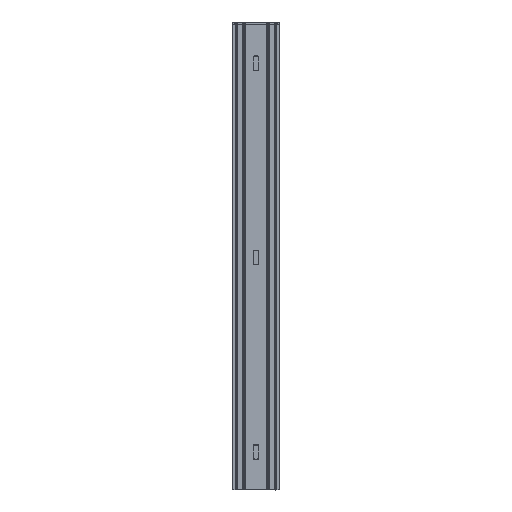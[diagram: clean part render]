
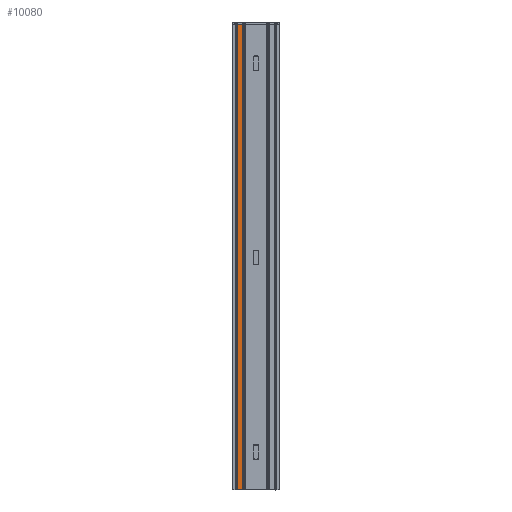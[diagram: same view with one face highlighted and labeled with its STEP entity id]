
A CAD part, front view. The second image highlights one B-rep face of the part: STEP entity #10080.
In plain terms, the highlighted planar face has unit normal (0, -1, 0).
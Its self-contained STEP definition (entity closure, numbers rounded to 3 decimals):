
#654 = LINE ( 'NONE', #9237, #6649 ) ;
#798 = EDGE_CURVE ( 'NONE', #23092, #19710, #23817, .T. ) ;
#1189 = ORIENTED_EDGE ( 'NONE', *, *, #798, .T. ) ;
#1209 = VERTEX_POINT ( 'NONE', #2409 ) ;
#1244 = FACE_OUTER_BOUND ( 'NONE', #27784, .T. ) ;
#1849 = LINE ( 'NONE', #25342, #25731 ) ;
#2067 = CARTESIAN_POINT ( 'NONE',  ( -119.192, -0.8, 2943.5 ) ) ;
#2092 = VECTOR ( 'NONE', #21010, 1000. ) ;
#2409 = CARTESIAN_POINT ( 'NONE',  ( -82.815, -0.801, 2943.5 ) ) ;
#2574 = B_SPLINE_CURVE_WITH_KNOTS ( 'NONE', 3,
 ( #11395, #9286, #11539, #17870 ),
 .UNSPECIFIED., .F., .F.,
 ( 4, 4 ),
 ( 0., 1. ),
 .UNSPECIFIED. ) ;
#3012 = CARTESIAN_POINT ( 'NONE',  ( -82.815, -0.801, 2943.5 ) ) ;
#3418 = LINE ( 'NONE', #8071, #2092 ) ;
#3566 = CARTESIAN_POINT ( 'NONE',  ( -119.323, -0.8, 0. ) ) ;
#3656 = EDGE_CURVE ( 'NONE', #1209, #6328, #17499, .T. ) ;
#4030 = CARTESIAN_POINT ( 'NONE',  ( -118.994, -0.8, 2943.5 ) ) ;
#5493 = CARTESIAN_POINT ( 'NONE',  ( -119.323, -0.8, 2943.5 ) ) ;
#5501 = CARTESIAN_POINT ( 'NONE',  ( -82.81, -0.8, 0. ) ) ;
#6328 = VERTEX_POINT ( 'NONE', #26913 ) ;
#6489 = VERTEX_POINT ( 'NONE', #5501 ) ;
#6649 = VECTOR ( 'NONE', #24000, 1000. ) ;
#7008 = DIRECTION ( 'NONE',  ( 0., -1., 0. ) ) ;
#8071 = CARTESIAN_POINT ( 'NONE',  ( -119.323, -0.8, 2943.5 ) ) ;
#8302 = ORIENTED_EDGE ( 'NONE', *, *, #25817, .T. ) ;
#9237 = CARTESIAN_POINT ( 'NONE',  ( -82.81, -0.8, 2943.5 ) ) ;
#9286 = CARTESIAN_POINT ( 'NONE',  ( -119.261, -0.8, 2943.5 ) ) ;
#9778 = ORIENTED_EDGE ( 'NONE', *, *, #22526, .T. ) ;
#10080 = ADVANCED_FACE ( 'NONE', ( #1244 ), #17698, .T. ) ;
#10749 = CARTESIAN_POINT ( 'NONE',  ( -119.117, -0.8, 2943.5 ) ) ;
#11395 = CARTESIAN_POINT ( 'NONE',  ( -119.229, -0.8, 2943.5 ) ) ;
#11539 = CARTESIAN_POINT ( 'NONE',  ( -119.292, -0.8, 2943.5 ) ) ;
#11604 = CARTESIAN_POINT ( 'NONE',  ( -94.871, -0.8, 2943.5 ) ) ;
#11665 = ORIENTED_EDGE ( 'NONE', *, *, #13677, .F. ) ;
#12007 = ORIENTED_EDGE ( 'NONE', *, *, #24133, .T. ) ;
#12606 = CARTESIAN_POINT ( 'NONE',  ( -119.076, -0.8, 2943.5 ) ) ;
#12895 = CARTESIAN_POINT ( 'NONE',  ( -119.154, -0.8, 2943.5 ) ) ;
#13677 = EDGE_CURVE ( 'NONE', #6489, #18335, #1849, .T. ) ;
#14172 = DIRECTION ( 'NONE',  ( 1., 0., 0. ) ) ;
#14595 = CARTESIAN_POINT ( 'NONE',  ( -119.229, -0.8, 2943.5 ) ) ;
#15173 = AXIS2_PLACEMENT_3D ( 'NONE', #26262, #7008, #14172 ) ;
#16788 = CARTESIAN_POINT ( 'NONE',  ( -106.933, -0.8, 2943.5 ) ) ;
#17094 = CARTESIAN_POINT ( 'NONE',  ( -119.117, -0.8, 2943.5 ) ) ;
#17499 = B_SPLINE_CURVE_WITH_KNOTS ( 'NONE', 3,
 ( #3012, #11604, #16788, #27060 ),
 .UNSPECIFIED., .F., .F.,
 ( 4, 4 ),
 ( 0., 1. ),
 .UNSPECIFIED. ) ;
#17678 = VERTEX_POINT ( 'NONE', #5493 ) ;
#17698 = PLANE ( 'NONE',  #15173 ) ;
#17870 = CARTESIAN_POINT ( 'NONE',  ( -119.323, -0.8, 2943.5 ) ) ;
#18060 = ORIENTED_EDGE ( 'NONE', *, *, #3656, .T. ) ;
#18335 = VERTEX_POINT ( 'NONE', #3566 ) ;
#19279 = B_SPLINE_CURVE_WITH_KNOTS ( 'NONE', 3,
 ( #4030, #27646, #12606, #17094 ),
 .UNSPECIFIED., .F., .F.,
 ( 4, 4 ),
 ( 0., 1. ),
 .UNSPECIFIED. ) ;
#19710 = VERTEX_POINT ( 'NONE', #24660 ) ;
#21010 = DIRECTION ( 'NONE',  ( 0., 0., -1. ) ) ;
#22526 = EDGE_CURVE ( 'NONE', #19710, #17678, #2574, .T. ) ;
#22980 = DIRECTION ( 'NONE',  ( -1., 0., 0. ) ) ;
#23092 = VERTEX_POINT ( 'NONE', #10749 ) ;
#23817 = B_SPLINE_CURVE_WITH_KNOTS ( 'NONE', 3,
 ( #25562, #12895, #2067, #14595 ),
 .UNSPECIFIED., .F., .F.,
 ( 4, 4 ),
 ( 0., 1. ),
 .UNSPECIFIED. ) ;
#24000 = DIRECTION ( 'NONE',  ( 0., 0., -1. ) ) ;
#24133 = EDGE_CURVE ( 'NONE', #17678, #18335, #3418, .T. ) ;
#24660 = CARTESIAN_POINT ( 'NONE',  ( -119.229, -0.8, 2943.5 ) ) ;
#25331 = EDGE_CURVE ( 'NONE', #1209, #6489, #654, .T. ) ;
#25342 = CARTESIAN_POINT ( 'NONE',  ( -82.81, -0.8, 0. ) ) ;
#25392 = ORIENTED_EDGE ( 'NONE', *, *, #25331, .F. ) ;
#25562 = CARTESIAN_POINT ( 'NONE',  ( -119.117, -0.8, 2943.5 ) ) ;
#25731 = VECTOR ( 'NONE', #22980, 1000. ) ;
#25817 = EDGE_CURVE ( 'NONE', #6328, #23092, #19279, .T. ) ;
#26262 = CARTESIAN_POINT ( 'NONE',  ( -82.81, -0.8, 2943.5 ) ) ;
#26913 = CARTESIAN_POINT ( 'NONE',  ( -118.994, -0.8, 2943.5 ) ) ;
#27060 = CARTESIAN_POINT ( 'NONE',  ( -118.994, -0.8, 2943.5 ) ) ;
#27646 = CARTESIAN_POINT ( 'NONE',  ( -119.035, -0.8, 2943.5 ) ) ;
#27784 = EDGE_LOOP ( 'NONE', ( #11665, #25392, #18060, #8302, #1189, #9778, #12007 ) ) ;
